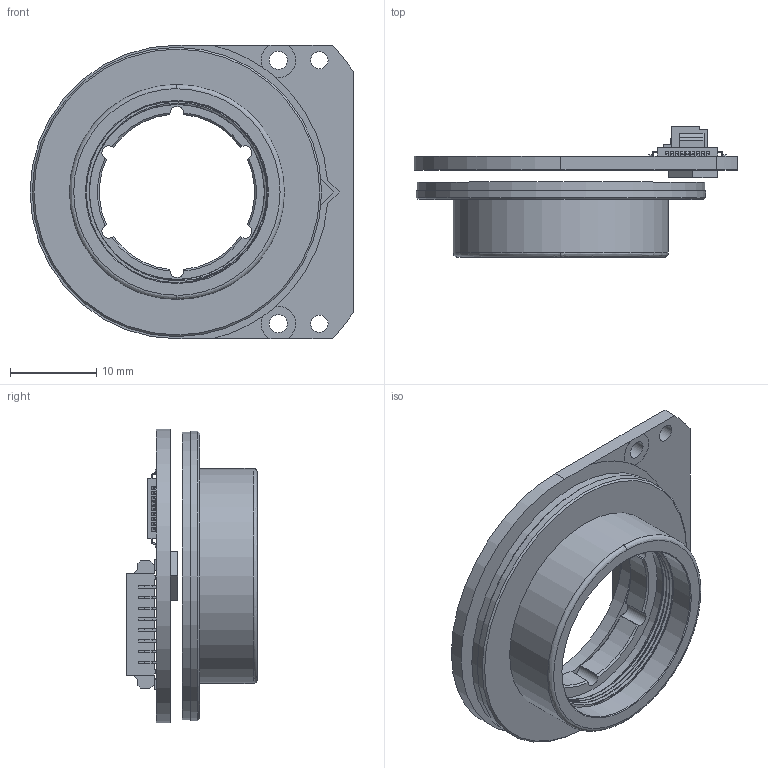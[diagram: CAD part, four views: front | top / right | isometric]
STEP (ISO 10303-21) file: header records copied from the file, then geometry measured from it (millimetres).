
FILE_DESCRIPTION (( 'STEP AP203' ), '1' );
FILE_NAME ('eCoder18.STEP', '2022-12-28T09:17:22', ( 'Windows User' ), ( 'P R C' ), 'SwSTEP 2.0', 'SolidWorks 2021', '' );
FILE_SCHEMA (( 'CONFIG_CONTROL_DESIGN' ));
Length unit declared in the file: millimetre
Products named in the file (1): eCoder18
Bounding box: 37.5 x 15.15 x 34 mm (x, y, z)
Volume: 3636.3 mm3; surface area: 6137.6 mm2
Topology: 6 solids, 6 shells, 975 faces, 2531 edges, 1625 vertices
Faces by surface type: plane 769, cylinder 186, cone 15, bspline 5
Full cylindrical faces by diameter (mm): 2 x2, 2.1 x2, 21 x3, 21.13 x1, 22 x1, 24.9 x1, 33.3 x1, 33.5 x1
Entity records: 30185 total; most frequent: CARTESIAN_POINT 6601, ORIENTED_EDGE 5022, DIRECTION 4636, EDGE_CURVE 2511, LINE 1918, VECTOR 1918, VERTEX_POINT 1620, AXIS2_PLACEMENT_3D 1359
